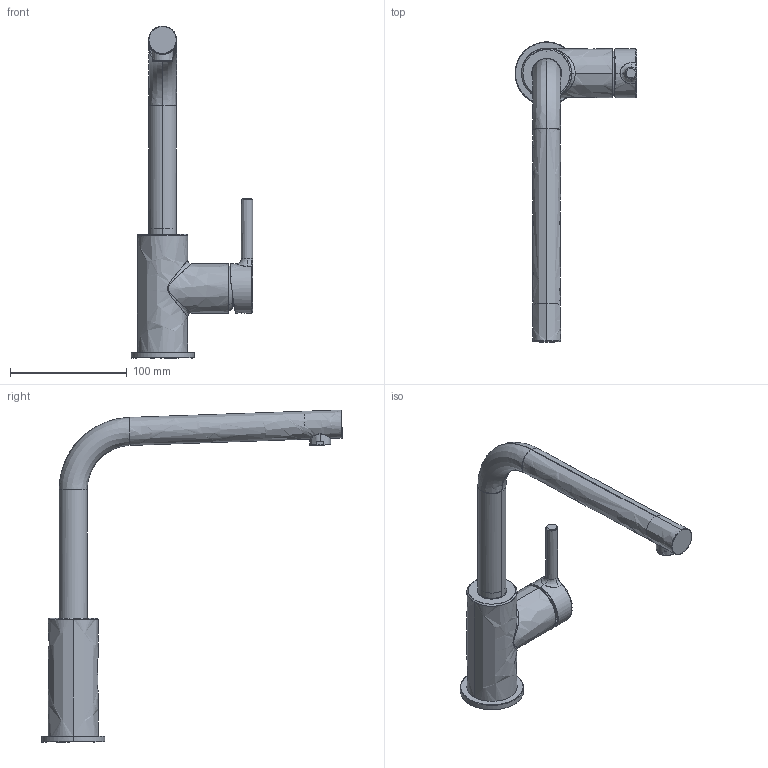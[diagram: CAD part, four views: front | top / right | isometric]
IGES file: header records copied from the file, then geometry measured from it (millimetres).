
Global section: file name: F:\_CONVERSIONE_CAD_2024_2025\03_3D kits new\08_Taps\Lina\3D001_Taps_Lina_L-Swivel\_LAB\3D001_Taps_Lina_L-Swivel.igs; native system: Rhinoceros ( Jan  9 2024 ); preprocessor: Trout Lake IGES 012 Jan  9 2024; date: 240131.092532; units: millimetre
Bounding box: 104.39 x 257.41 x 284.18 mm (x, y, z)
Surface area: 122537.1 mm2 (no closed solid volume)
Topology: 0 solids, 0 shells, 795 faces, 4581 edges, 4571 vertices
Faces by surface type: bspline 795
